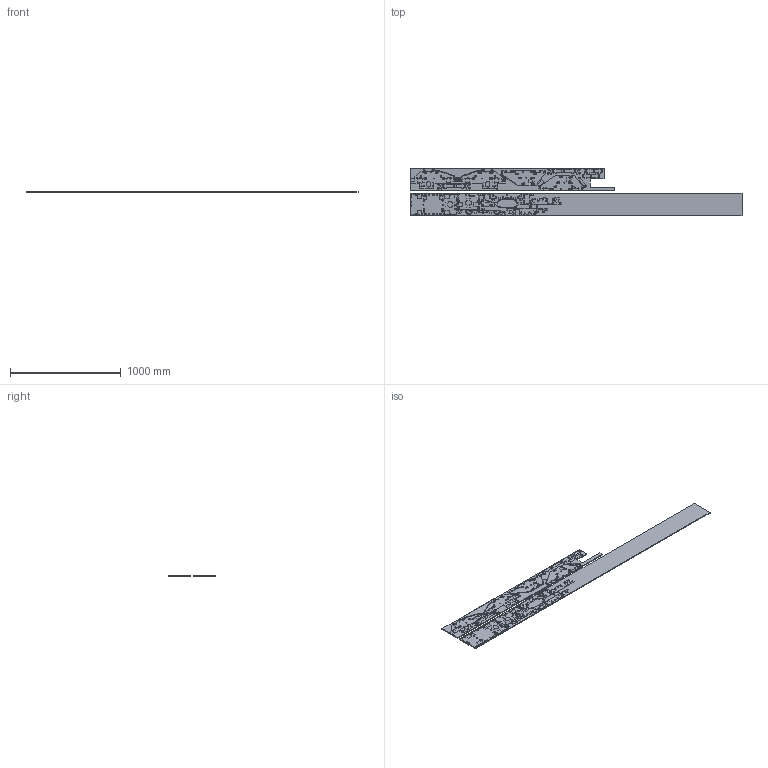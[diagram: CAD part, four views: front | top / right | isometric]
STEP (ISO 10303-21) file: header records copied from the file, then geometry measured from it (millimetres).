
FILE_DESCRIPTION(/* description */ (''),/* implementation_level */ '2;1');
FILE_NAME(/* name */ 'C:/Users/jakob/Documents/GitHub/fabricatable-machines/humphrey-large-format-cnc/humphrey_v3/parts/alu/step/Roller_axis_plates.step',/* time_stamp */ '2018-08-17T09:42:01+02:00',/* author */ ('jaknil'),/* organization */ (''),/* preprocessor_version */ 'ST-DEVELOPER v17',/* originating_system */ 'Autodesk Translation Framework v7.1.0.215',/* authorisation */ '');
FILE_SCHEMA (('AUTOMOTIVE_DESIGN { 1 0 10303 214 3 1 1 }'));
Products named in the file (30): Roller axis plates CAM; square_x-carriage_moved_rollers; layout; Alu; Axis_plate; Bottom; Top; Vertical; axis_plate_z; side_holder; Sensor_mount; e-chain-arm v4; Stock_alu; start; y-rest; scrap1; scrap2; Square_y_roller_sole_added_holes; Roller_sole_y; layout_1; Alu_1; roller_holder_y; base_sole; Motor_layer; back_support; roller_holder_y(Mirror); base_sole(Mirror); Motor_layer(Mirror); back_support(Mirror); tool
Assembly tree (31 placements, depth 6):
  Roller axis plates CAM
    square_x-carriage_moved_rollers
      layout
        Alu
          Axis_plate
          Bottom
          Top
          Sensor_mount  x2
          Vertical  x2
          axis_plate_z
          side_holder
          e-chain-arm v4
    Stock_alu
      start
      y-rest
      scrap1
      scrap2
    Square_y_roller_sole_added_holes
      Roller_sole_y
        layout_1
          Alu_1
            roller_holder_y
            base_sole
            Motor_layer
            back_support
            roller_holder_y(Mirror)
            base_sole(Mirror)
            Motor_layer(Mirror)
            back_support(Mirror)
    tool
Bounding box: 3000 x 425 x 8 mm (x, y, z)
Surface area: 2963511.4 mm2
Topology: 23 solids, 23 shells, 2172 faces, 6204 edges, 4155 vertices
Faces by surface type: cylinder 1089, plane 1083
Full cylindrical faces by diameter (mm): 4.2 x78, 4.5 x10, 5 x42, 5.5 x23, 6 x52, 7 x2, 8 x10, 10 x42, 10.4 x2, 14 x4, 18 x3
Entity records: 68070 total; most frequent: DIRECTION 11930, CARTESIAN_POINT 11639, ORIENTED_EDGE 11468, EDGE_CURVE 5734, AXIS2_PLACEMENT_3D 4130, VERTEX_POINT 3839, LINE 3670, VECTOR 3670
